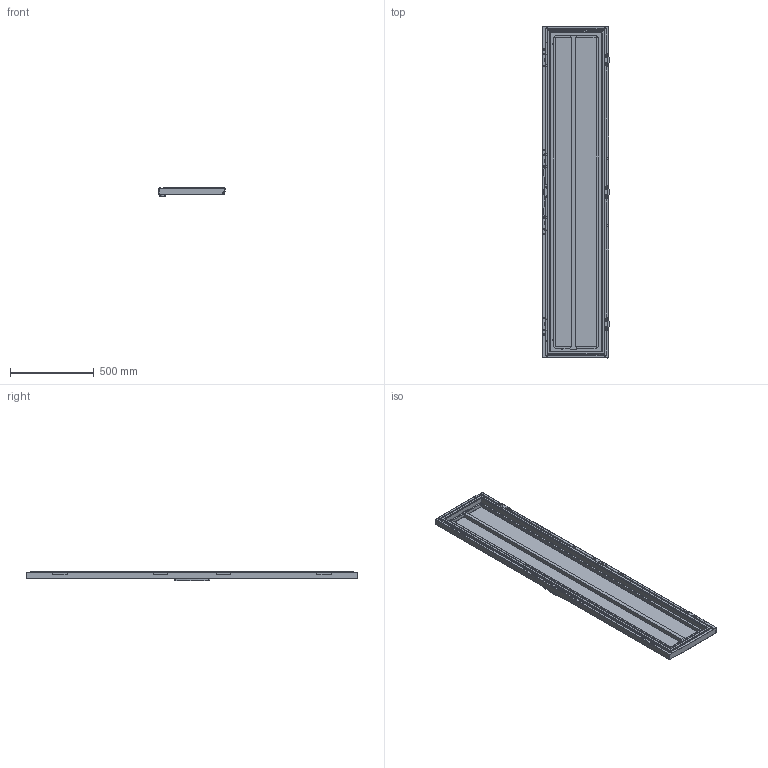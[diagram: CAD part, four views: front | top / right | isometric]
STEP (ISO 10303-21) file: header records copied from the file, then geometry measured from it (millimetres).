
FILE_DESCRIPTION((''),'2;1');
FILE_NAME('SB106332_3D-SOFTWARE_COLOUR','2013-10-03T',('SESA224493'),('Schneider-Electric'),'PRO/ENGINEER BY PARAMETRIC TECHNOLOGY CORPORATION, 2011410','PRO/ENGINEER BY PARAMETRIC TECHNOLOGY CORPORATION, 2011410','');
FILE_SCHEMA(('CONFIG_CONTROL_DESIGN'));
Length unit declared in the file: millimetre
Products named in the file (1): SB106332_3D-SOFTWARE_COLOUR
Bounding box: 395.75 x 1979 x 58 mm (x, y, z)
Volume: 3552180 mm3; surface area: 2967359.1 mm2
Topology: 1 solids, 1 shells, 643 faces, 1749 edges, 1129 vertices
Faces by surface type: plane 504, cylinder 127, extrusion 12
Entity records: 20758 total; most frequent: CARTESIAN_POINT 4272, ORIENTED_EDGE 3498, DIRECTION 3220, EDGE_CURVE 1749, VECTOR 1406, LINE 1394, VERTEX_POINT 1129, AXIS2_PLACEMENT_3D 907
